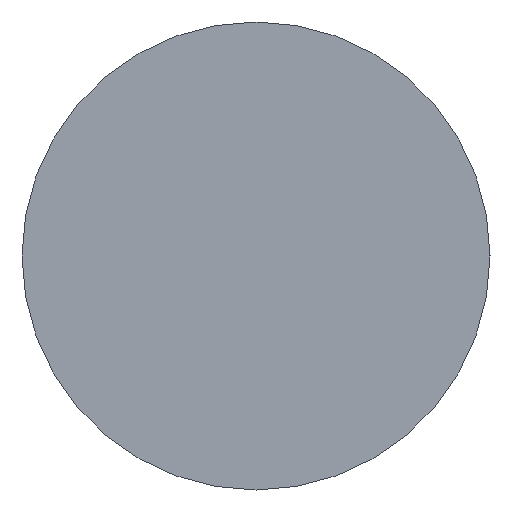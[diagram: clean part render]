
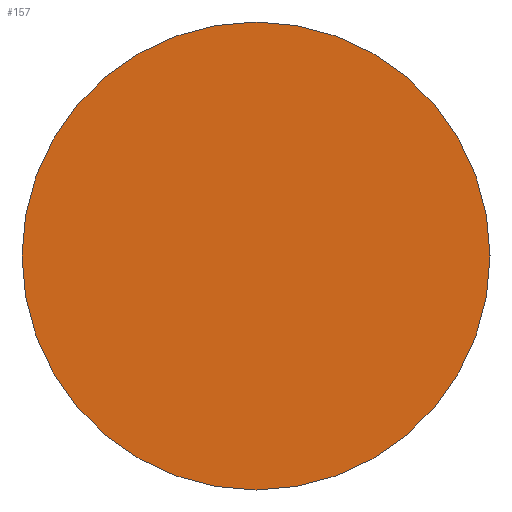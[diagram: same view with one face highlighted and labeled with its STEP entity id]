
A CAD part, left-side view. The second image highlights one B-rep face of the part: STEP entity #157.
In plain terms, the highlighted planar face has unit normal (-1, 0, 0).
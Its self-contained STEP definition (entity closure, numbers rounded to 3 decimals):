
#5 = EDGE_LOOP ( 'NONE', ( #240, #79 ) ) ;
#9 = AXIS2_PLACEMENT_3D ( 'NONE', #165, #35, #201 ) ;
#35 = DIRECTION ( 'NONE',  ( 1., 0., 0. ) ) ;
#47 = CIRCLE ( 'NONE', #9, 7. ) ;
#61 = EDGE_CURVE ( 'NONE', #195, #163, #47, .T. ) ;
#76 = FACE_OUTER_BOUND ( 'NONE', #5, .T. ) ;
#79 = ORIENTED_EDGE ( 'NONE', *, *, #121, .F. ) ;
#92 = CARTESIAN_POINT ( 'NONE',  ( 0., -7., 0. ) ) ;
#101 = DIRECTION ( 'NONE',  ( 1., 0., 0. ) ) ;
#110 = CARTESIAN_POINT ( 'NONE',  ( 0., 0., 0. ) ) ;
#121 = EDGE_CURVE ( 'NONE', #163, #195, #138, .T. ) ;
#127 = DIRECTION ( 'NONE',  ( -1., 0., 0. ) ) ;
#129 = DIRECTION ( 'NONE',  ( 0., -1., 0. ) ) ;
#138 = CIRCLE ( 'NONE', #224, 7. ) ;
#157 = ADVANCED_FACE ( 'NONE', ( #76 ), #222, .T. ) ;
#163 = VERTEX_POINT ( 'NONE', #92 ) ;
#165 = CARTESIAN_POINT ( 'NONE',  ( 0., 0., 0. ) ) ;
#167 = CARTESIAN_POINT ( 'NONE',  ( 0., 7., 0. ) ) ;
#195 = VERTEX_POINT ( 'NONE', #167 ) ;
#201 = DIRECTION ( 'NONE',  ( 0., 1., 0. ) ) ;
#219 = AXIS2_PLACEMENT_3D ( 'NONE', #225, #127, #129 ) ;
#222 = PLANE ( 'NONE',  #219 ) ;
#224 = AXIS2_PLACEMENT_3D ( 'NONE', #110, #101, #228 ) ;
#225 = CARTESIAN_POINT ( 'NONE',  ( 0., 0., 0. ) ) ;
#228 = DIRECTION ( 'NONE',  ( 0., 1., 0. ) ) ;
#240 = ORIENTED_EDGE ( 'NONE', *, *, #61, .F. ) ;
